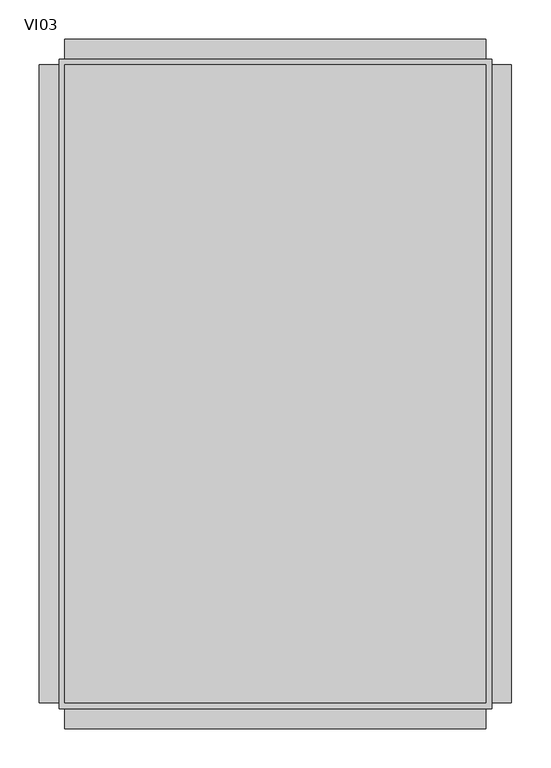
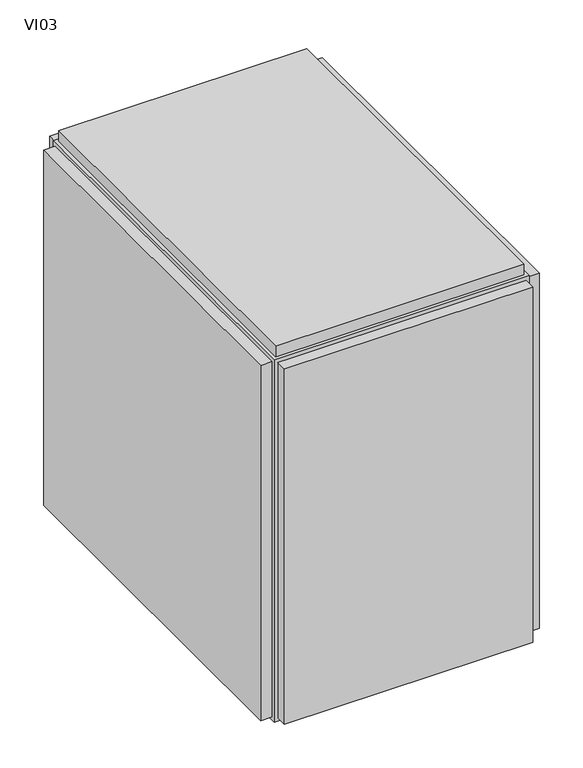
"""IFC4 building model written with IfcOpenShell, lengths in millimetres: proxy geometry, ZYR_03.06.01 Ventilador Caixa Aportació : VI03."""

from ifc_helpers import new_model, si_unit, frame, origin, origin_with_axes, place, context, project, spatial, polyline, outline, extrude, source, transform, mapped, element, save


def vi03_fd1a3480(model_context):
    return source(origin(), model_context, "Body", "SweptSolid", [
        extrude(outline(polyline([(275.0, 412.5), (275.0, -412.5), (-275.0, -412.5), (-275.0, 412.5), (275.0, 412.5)])), origin_with_axes(), (0.0, 0.0, 1.0), 825.0),
        extrude(outline(polyline([(300.0, 405.0), (300.0, -405.0), (275.0, -405.0), (275.0, 405.0), (300.0, 405.0)])), frame((0.0, 0.0, 7.5), z_axis=(0.0, 0.0, 1.0), x_axis=(1.0, 0.0, 0.0)), (0.0, 0.0, 1.0), 810.0),
        extrude(outline(polyline([(-275.0, 405.0), (-275.0, -405.0), (-300.0, -405.0), (-300.0, 405.0), (-275.0, 405.0)])), frame((0.0, 0.0, 7.5), z_axis=(0.0, 0.0, 1.0), x_axis=(1.0, 0.0, 0.0)), (0.0, 0.0, 1.0), 810.0),
        extrude(outline(polyline([(267.5, -437.5), (-267.5, -437.5), (-267.5, -412.5), (267.5, -412.5), (267.5, -437.5)])), frame((0.0, 0.0, 7.5), z_axis=(0.0, 0.0, 1.0), x_axis=(1.0, 0.0, 0.0)), (0.0, 0.0, 1.0), 810.0),
        extrude(outline(polyline([(267.5, 412.5), (-267.5, 412.5), (-267.5, 437.5), (267.5, 437.5), (267.5, 412.5)])), frame((0.0, 0.0, 7.5), z_axis=(0.0, 0.0, 1.0), x_axis=(1.0, 0.0, 0.0)), (0.0, 0.0, 1.0), 810.0),
        extrude(outline(polyline([(267.5, 405.0), (267.5, -405.0), (-267.5, -405.0), (-267.5, 405.0), (267.5, 405.0)])), frame((0.0, 0.0, 825.0), z_axis=(0.0, 0.0, 1.0), x_axis=(1.0, 0.0, 0.0)), (0.0, 0.0, 1.0), 25.0),
    ])


if __name__ == "__main__":
    model = new_model("IFC4")
    model_context = context("Model", 3, world=origin())
    ifc_project = project(units=[si_unit("LENGTHUNIT", "METRE", prefix="MILLI")], contexts=[model_context])
    site = spatial("IfcSite", under=ifc_project)
    building = spatial("IfcBuilding", under=site)
    placement = place(None, origin())
    vi03_shape = vi03_fd1a3480(model_context)
    element("IfcBuildingElementProxy", 1, Name="ZYR_03.06.01 Ventilador Caixa Aportació : VI03", ObjectType="ZYR_03.06.01 Ventilador Caixa Aportació : VI03", at=placement, inside=building, context=model_context, shape_type="MappedRepresentation", body=[
        mapped(vi03_shape, transform((0.0, 0.0, 0.0), x_axis=(1.0, 0.0, 0.0), y_axis=(0.0, 1.0, 0.0), z_axis=(0.0, 0.0, 1.0))),
    ])
    save(model, "model.ifc")
